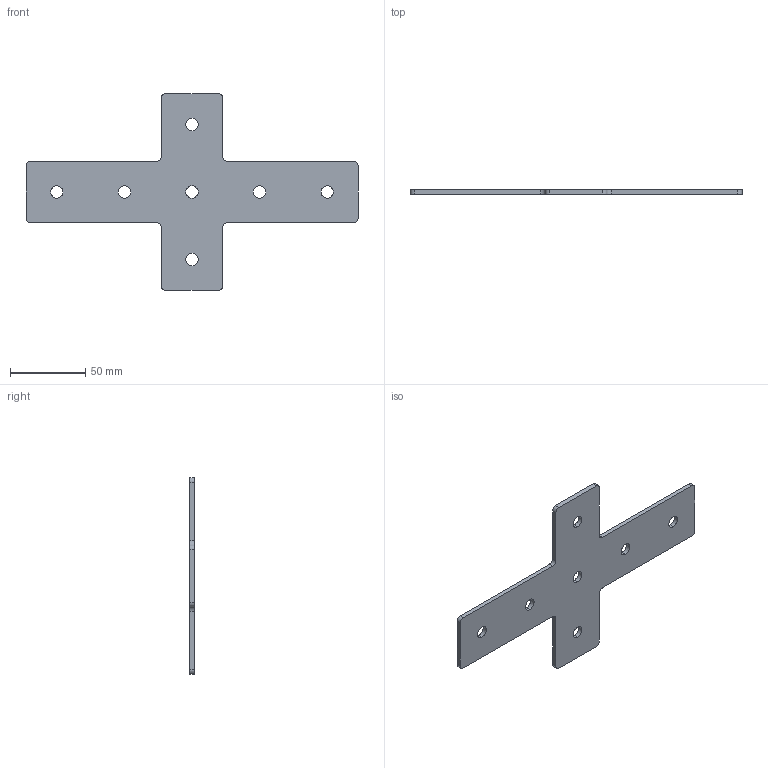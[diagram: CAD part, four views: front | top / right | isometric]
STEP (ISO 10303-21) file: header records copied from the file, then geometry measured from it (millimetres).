
FILE_DESCRIPTION (( 'STEP AP203' ), '1' );
FILE_NAME ('ﾕ-7-45.STEP', '2016-07-23T09:41:13', ( '' ), ( '' ), 'SwSTEP 2.0', 'SolidWorks 2014', '' );
FILE_SCHEMA (( 'CONFIG_CONTROL_DESIGN' ));
Length unit declared in the file: millimetre
Products named in the file (1): ﾕ-7-45
Bounding box: 221 x 3 x 131 mm (x, y, z)
Surface area: 27353.8 mm2 (no closed solid volume)
Topology: 0 solids, 1 shells, 40 faces, 114 edges, 76 vertices
Faces by surface type: cylinder 26, plane 14
Entity records: 1435 total; most frequent: DIRECTION 248, CARTESIAN_POINT 231, ORIENTED_EDGE 228, EDGE_CURVE 114, AXIS2_PLACEMENT_3D 93, VERTEX_POINT 76, VECTOR 62, LINE 62
